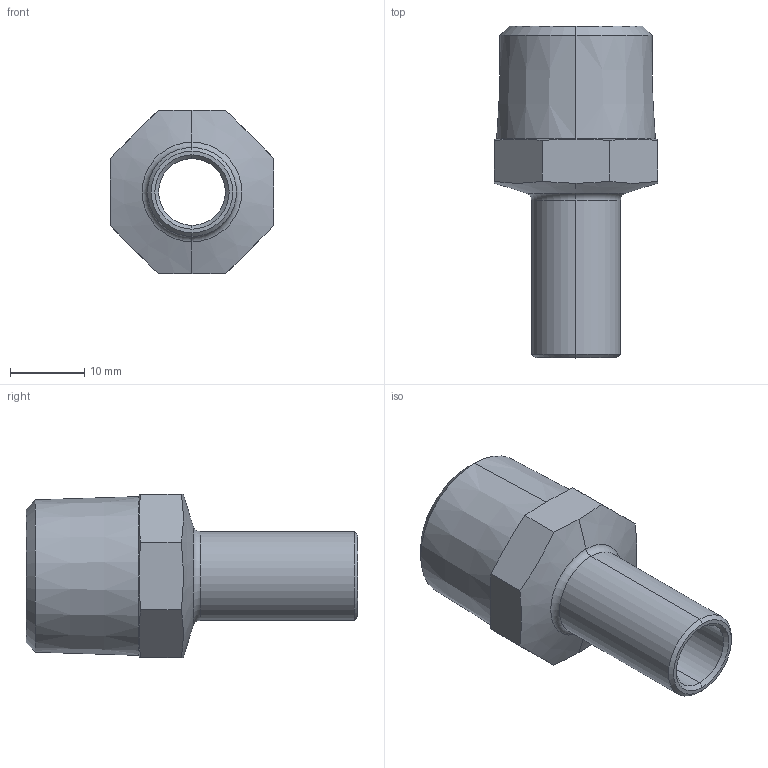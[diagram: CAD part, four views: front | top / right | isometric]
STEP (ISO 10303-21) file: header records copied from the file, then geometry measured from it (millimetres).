
FILE_DESCRIPTION (( 'STEP AP203' ), '1' );
FILE_NAME ('SP4280G Ø12 1-2.STEP', '2017-04-26T09:03:09', ( '' ), ( '' ), 'SwSTEP 2.0', 'SolidWorks 2016', '' );
FILE_SCHEMA (( 'CONFIG_CONTROL_DESIGN' ));
Length unit declared in the file: millimetre
Products named in the file (1): SP4280G Ø12 1-2
Bounding box: 22 x 44.72 x 22 mm (x, y, z)
Volume: 5005 mm3; surface area: 4448.7 mm2
Topology: 1 solids, 1 shells, 34 faces, 78 edges, 46 vertices
Faces by surface type: cone 16, plane 10, cylinder 6, torus 2
Entity records: 1071 total; most frequent: CARTESIAN_POINT 243, ORIENTED_EDGE 156, DIRECTION 156, EDGE_CURVE 78, AXIS2_PLACEMENT_3D 63, VERTEX_POINT 46, EDGE_LOOP 36, FACE_OUTER_BOUND 34
